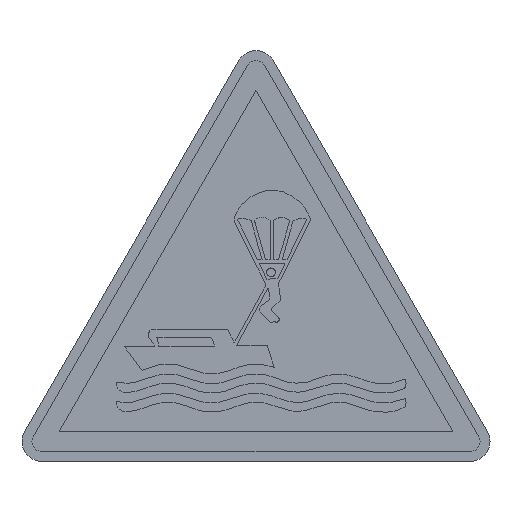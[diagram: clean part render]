
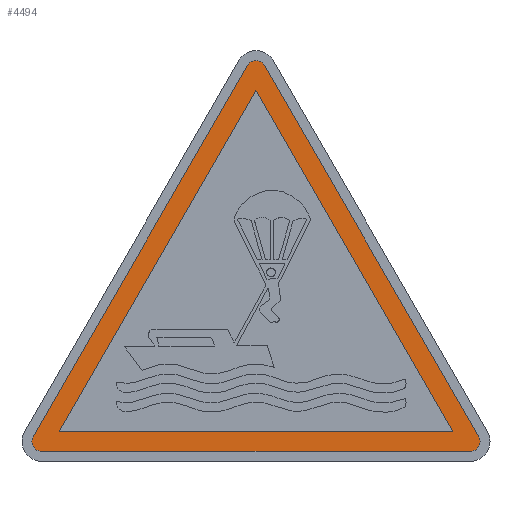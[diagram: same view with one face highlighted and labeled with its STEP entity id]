
A CAD part, top view. The second image highlights one B-rep face of the part: STEP entity #4494.
In plain terms, the highlighted planar face has unit normal (0, 0, 1).
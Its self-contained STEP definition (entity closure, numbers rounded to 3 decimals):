
#153 = CIRCLE ( 'NONE', #8218, 1. ) ;
#240 = CARTESIAN_POINT ( 'NONE',  ( -19.804, 3., 0.22 ) ) ;
#396 = VECTOR ( 'NONE', #12346, 1000. ) ;
#405 = VECTOR ( 'NONE', #8164, 1000. ) ;
#532 = EDGE_LOOP ( 'NONE', ( #7485, #11834, #1868 ) ) ;
#626 = EDGE_CURVE ( 'NONE', #6839, #6747, #6111, .T. ) ;
#627 = DIRECTION ( 'NONE',  ( -0.5, 0.866, 0. ) ) ;
#766 = CARTESIAN_POINT ( 'NONE',  ( -21.536, 2., 0.22 ) ) ;
#839 = CARTESIAN_POINT ( 'NONE',  ( -21.536, 1., 0.22 ) ) ;
#973 = VERTEX_POINT ( 'NONE', #13100 ) ;
#1247 = CARTESIAN_POINT ( 'NONE',  ( 0., 39.301, 0.22 ) ) ;
#1324 = CIRCLE ( 'NONE', #1567, 1. ) ;
#1341 = DIRECTION ( 'NONE',  ( 1., 0., 0. ) ) ;
#1516 = CARTESIAN_POINT ( 'NONE',  ( -19.804, 3., 0.22 ) ) ;
#1567 = AXIS2_PLACEMENT_3D ( 'NONE', #1247, #5648, #12311 ) ;
#1690 = CARTESIAN_POINT ( 'NONE',  ( -22.402, 2.5, 0.22 ) ) ;
#1868 = ORIENTED_EDGE ( 'NONE', *, *, #7478, .F. ) ;
#2038 = ORIENTED_EDGE ( 'NONE', *, *, #4005, .T. ) ;
#2199 = DIRECTION ( 'NONE',  ( 1., 0., 0. ) ) ;
#2322 = VERTEX_POINT ( 'NONE', #240 ) ;
#2672 = CIRCLE ( 'NONE', #12598, 1. ) ;
#2698 = VERTEX_POINT ( 'NONE', #1690 ) ;
#3137 = CARTESIAN_POINT ( 'NONE',  ( 21.536, 1., 0.22 ) ) ;
#3937 = EDGE_CURVE ( 'NONE', #10889, #2322, #12566, .T. ) ;
#4005 = EDGE_CURVE ( 'NONE', #4246, #2698, #8428, .T. ) ;
#4055 = CARTESIAN_POINT ( 'NONE',  ( 0., 39.301, 0.22 ) ) ;
#4134 = PLANE ( 'NONE',  #6695 ) ;
#4246 = VERTEX_POINT ( 'NONE', #10567 ) ;
#4494 = ADVANCED_FACE ( 'NONE', ( #14135, #7538 ), #4134, .T. ) ;
#4825 = LINE ( 'NONE', #1516, #405 ) ;
#4891 = CARTESIAN_POINT ( 'NONE',  ( 0., 37.301, 0.22 ) ) ;
#5235 = DIRECTION ( 'NONE',  ( 0., 0., 1. ) ) ;
#5457 = DIRECTION ( 'NONE',  ( 1., 0., 0. ) ) ;
#5648 = DIRECTION ( 'NONE',  ( 0., 0., 1. ) ) ;
#5858 = CIRCLE ( 'NONE', #12562, 1. ) ;
#6075 = EDGE_LOOP ( 'NONE', ( #12407, #2038, #9466, #13902, #9272, #11957, #8654 ) ) ;
#6111 = LINE ( 'NONE', #10499, #12079 ) ;
#6392 = DIRECTION ( 'NONE',  ( 0., 0., 1. ) ) ;
#6617 = LINE ( 'NONE', #7714, #9111 ) ;
#6628 = VERTEX_POINT ( 'NONE', #3137 ) ;
#6695 = AXIS2_PLACEMENT_3D ( 'NONE', #4055, #13982, #8398 ) ;
#6747 = VERTEX_POINT ( 'NONE', #12805 ) ;
#6839 = VERTEX_POINT ( 'NONE', #10764 ) ;
#7478 = EDGE_CURVE ( 'NONE', #8839, #10889, #11092, .T. ) ;
#7485 = ORIENTED_EDGE ( 'NONE', *, *, #9029, .F. ) ;
#7538 = FACE_BOUND ( 'NONE', #532, .T. ) ;
#7577 = CARTESIAN_POINT ( 'NONE',  ( -0.866, 39.801, 0.22 ) ) ;
#7683 = DIRECTION ( 'NONE',  ( 0., 0., 1. ) ) ;
#7714 = CARTESIAN_POINT ( 'NONE',  ( -21.536, 1., 0.22 ) ) ;
#7726 = EDGE_CURVE ( 'NONE', #6747, #4246, #1324, .T. ) ;
#8164 = DIRECTION ( 'NONE',  ( 1., 0., 0. ) ) ;
#8218 = AXIS2_PLACEMENT_3D ( 'NONE', #12177, #7683, #2199 ) ;
#8255 = VECTOR ( 'NONE', #11455, 1000. ) ;
#8398 = DIRECTION ( 'NONE',  ( 1., 0., 0. ) ) ;
#8428 = LINE ( 'NONE', #7577, #8805 ) ;
#8654 = ORIENTED_EDGE ( 'NONE', *, *, #626, .T. ) ;
#8805 = VECTOR ( 'NONE', #11745, 1000. ) ;
#8839 = VERTEX_POINT ( 'NONE', #10281 ) ;
#9029 = EDGE_CURVE ( 'NONE', #2322, #8839, #4825, .T. ) ;
#9111 = VECTOR ( 'NONE', #5457, 1000. ) ;
#9182 = CARTESIAN_POINT ( 'NONE',  ( 0., 37.301, 0.22 ) ) ;
#9272 = ORIENTED_EDGE ( 'NONE', *, *, #11086, .T. ) ;
#9466 = ORIENTED_EDGE ( 'NONE', *, *, #13480, .T. ) ;
#10221 = CARTESIAN_POINT ( 'NONE',  ( 19.804, 3., 0.22 ) ) ;
#10281 = CARTESIAN_POINT ( 'NONE',  ( 19.804, 3., 0.22 ) ) ;
#10499 = CARTESIAN_POINT ( 'NONE',  ( 22.402, 2.5, 0.22 ) ) ;
#10567 = CARTESIAN_POINT ( 'NONE',  ( -0.866, 39.801, 0.22 ) ) ;
#10641 = CARTESIAN_POINT ( 'NONE',  ( -21.536, 2., 0.22 ) ) ;
#10713 = DIRECTION ( 'NONE',  ( 1., 0., 0. ) ) ;
#10764 = CARTESIAN_POINT ( 'NONE',  ( 22.402, 2.5, 0.22 ) ) ;
#10889 = VERTEX_POINT ( 'NONE', #9182 ) ;
#11086 = EDGE_CURVE ( 'NONE', #13524, #6628, #6617, .T. ) ;
#11092 = LINE ( 'NONE', #10221, #396 ) ;
#11455 = DIRECTION ( 'NONE',  ( -0.5, -0.866, 0. ) ) ;
#11745 = DIRECTION ( 'NONE',  ( -0.5, -0.866, 0. ) ) ;
#11829 = EDGE_CURVE ( 'NONE', #6628, #6839, #153, .T. ) ;
#11834 = ORIENTED_EDGE ( 'NONE', *, *, #3937, .F. ) ;
#11957 = ORIENTED_EDGE ( 'NONE', *, *, #11829, .T. ) ;
#12079 = VECTOR ( 'NONE', #627, 1000. ) ;
#12177 = CARTESIAN_POINT ( 'NONE',  ( 21.536, 2., 0.22 ) ) ;
#12311 = DIRECTION ( 'NONE',  ( 1., 0., 0. ) ) ;
#12346 = DIRECTION ( 'NONE',  ( -0.5, 0.866, 0. ) ) ;
#12407 = ORIENTED_EDGE ( 'NONE', *, *, #7726, .T. ) ;
#12562 = AXIS2_PLACEMENT_3D ( 'NONE', #10641, #5235, #1341 ) ;
#12566 = LINE ( 'NONE', #4891, #8255 ) ;
#12598 = AXIS2_PLACEMENT_3D ( 'NONE', #766, #6392, #10713 ) ;
#12765 = EDGE_CURVE ( 'NONE', #973, #13524, #5858, .T. ) ;
#12805 = CARTESIAN_POINT ( 'NONE',  ( 0.866, 39.801, 0.22 ) ) ;
#13100 = CARTESIAN_POINT ( 'NONE',  ( -22.536, 2., 0.22 ) ) ;
#13480 = EDGE_CURVE ( 'NONE', #2698, #973, #2672, .T. ) ;
#13524 = VERTEX_POINT ( 'NONE', #839 ) ;
#13902 = ORIENTED_EDGE ( 'NONE', *, *, #12765, .T. ) ;
#13982 = DIRECTION ( 'NONE',  ( 0., 0., 1. ) ) ;
#14135 = FACE_OUTER_BOUND ( 'NONE', #6075, .T. ) ;
